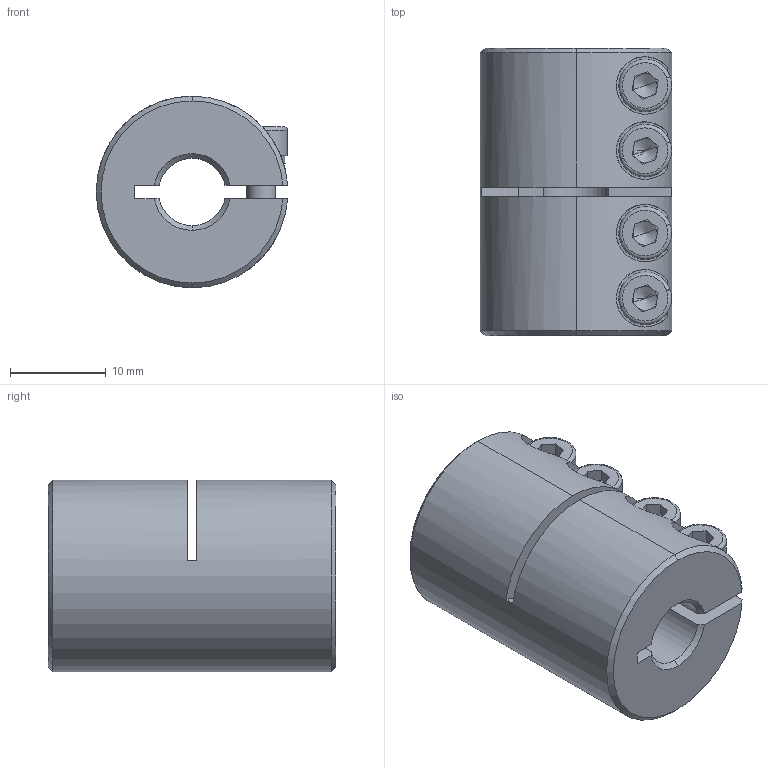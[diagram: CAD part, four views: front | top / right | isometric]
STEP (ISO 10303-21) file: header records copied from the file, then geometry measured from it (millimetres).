
FILE_DESCRIPTION (( 'STEP AP203' ), '1' );
FILE_NAME ('LL-B-D20L30-7-7.STEP', '2021-11-05T03:16:28', ( '' ), ( '' ), 'SwSTEP 2.0', 'SolidWorks 2018', '' );
FILE_SCHEMA (( 'CONFIG_CONTROL_DESIGN' ));
Length unit declared in the file: millimetre
Products named in the file (1): LL-B-D20L30-7-7
Bounding box: 19.98 x 30 x 20 mm (x, y, z)
Volume: 7612.9 mm3; surface area: 4538.6 mm2
Topology: 1 solids, 1 shells, 173 faces, 444 edges, 277 vertices
Faces by surface type: plane 87, cylinder 58, cone 20, torus 8
Entity records: 5650 total; most frequent: CARTESIAN_POINT 1319, DIRECTION 927, ORIENTED_EDGE 872, EDGE_CURVE 436, AXIS2_PLACEMENT_3D 357, VERTEX_POINT 277, LINE 213, VECTOR 213
